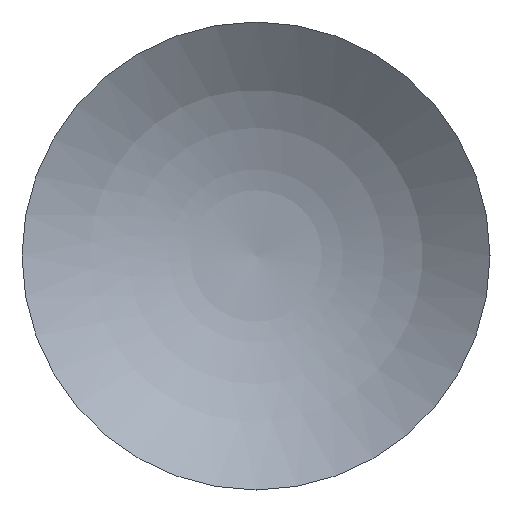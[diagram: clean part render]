
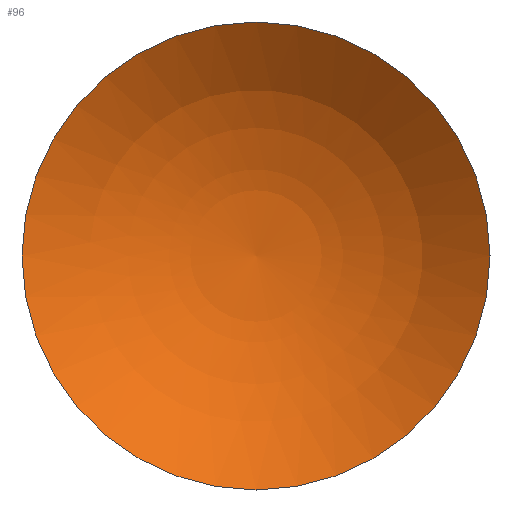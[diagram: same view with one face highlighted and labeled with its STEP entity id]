
A CAD part, front view. The second image highlights one B-rep face of the part: STEP entity #96.
In plain terms, the highlighted free-form (B-spline) face has degree [2, 2] with [3, 3] control points.
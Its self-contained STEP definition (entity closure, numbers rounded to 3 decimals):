
#68=CARTESIAN_POINT('',(7.665,-8.423,-10.0));
#69=CARTESIAN_POINT('',(13.047,-2.0,0.0));
#70=CARTESIAN_POINT('',(7.665,-8.423,10.0));
#71=CARTESIAN_POINT('',(0.,-2.,-10.0));
#72=CARTESIAN_POINT('',(0.,8.932,0.0));
#73=CARTESIAN_POINT('',(0.,-2.,10.0));
#74=CARTESIAN_POINT('',(-7.665,-8.423,-10.0));
#75=CARTESIAN_POINT('',(-13.047,-2.,0.0));
#76=CARTESIAN_POINT('',(-7.665,-8.423,10.0));
#84=(BOUNDED_SURFACE()B_SPLINE_SURFACE(2,2,((#68,#71,#74),(#69,#72,#75),(#70,#73,#76)),.UNSPECIFIED.,.F.,.F.,.U.)B_SPLINE_SURFACE_WITH_KNOTS((3,3),(3,3),(-0.697,0.697),(0.0,1.395),.UNSPECIFIED.)GEOMETRIC_REPRESENTATION_ITEM()RATIONAL_B_SPLINE_SURFACE(((1.0,0.766,1.0),(0.766,0.588,0.766),(1.0,0.766,1.0)))REPRESENTATION_ITEM('')SURFACE());
#85=CARTESIAN_POINT('',(-10.0,-5.636,0.0));
#86=VERTEX_POINT('',#85);
#87=CARTESIAN_POINT('',(0.0,-5.636,0.0));
#88=DIRECTION('',(0.0,1.0,0.0));
#89=DIRECTION('',(-1.0,0.0,0.0));
#90=AXIS2_PLACEMENT_3D('',#87,#88,#89);
#91=CIRCLE('',#90,10.0);
#92=EDGE_CURVE('',#86,#86,#91,.T.);
#93=ORIENTED_EDGE('',*,*,#92,.F.);
#94=EDGE_LOOP('',(#93));
#95=FACE_OUTER_BOUND('',#94,.T.);
#96=ADVANCED_FACE('',(#95),#84,.T.);
